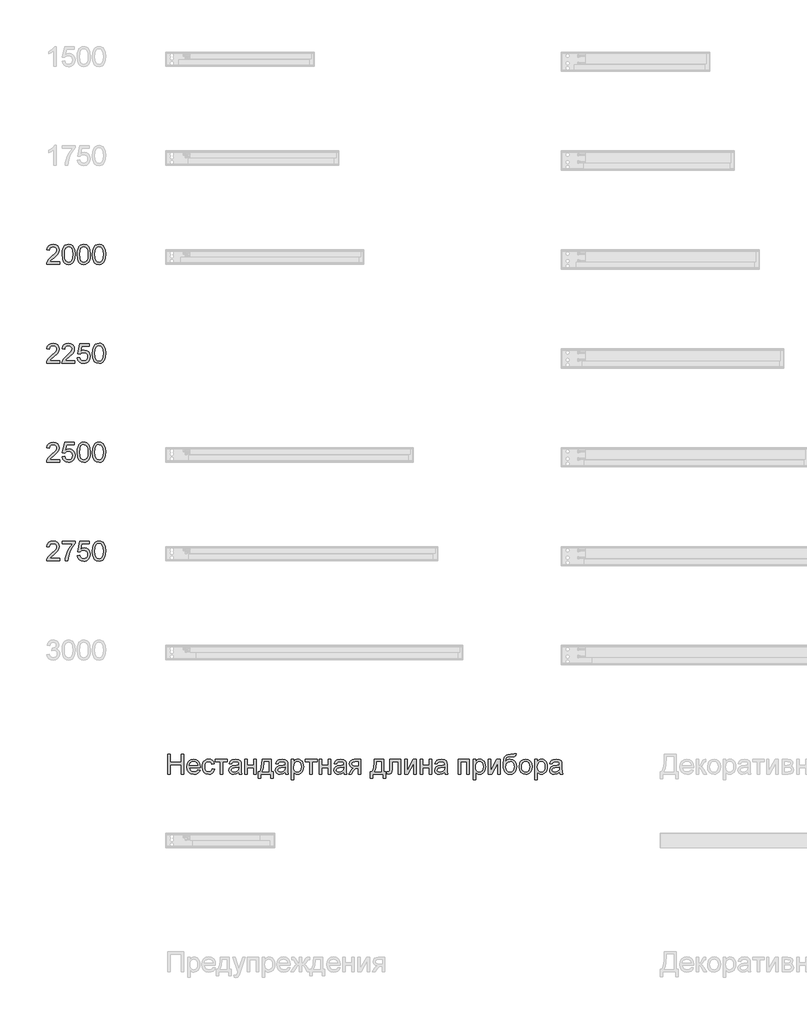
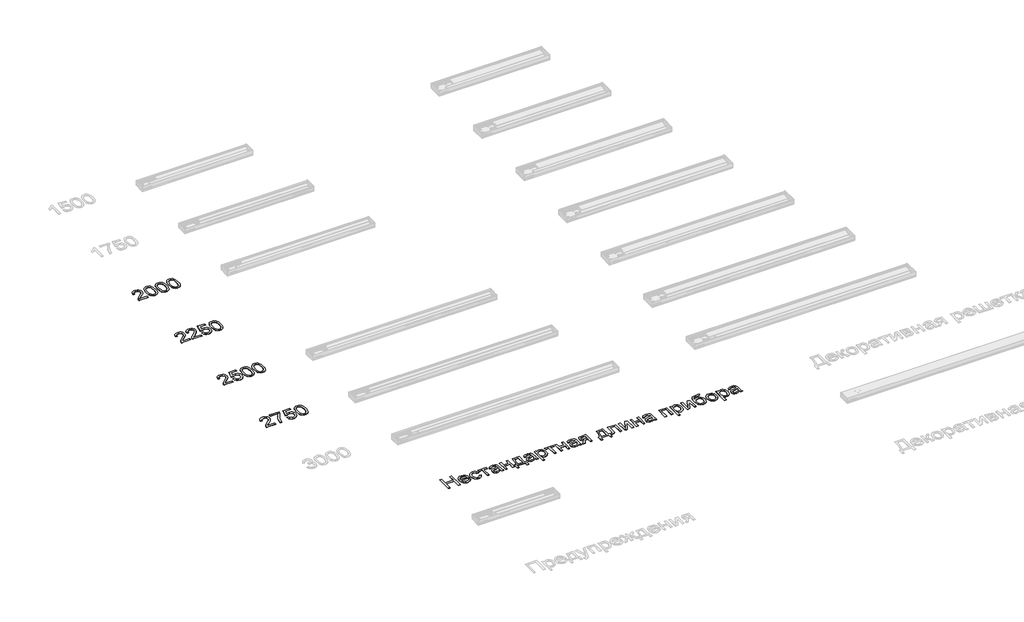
# One storey, part 3 of 17: 5 proxies.
"""IFC4 building model written with IfcOpenShell, lengths in millimetres."""

from ifc_helpers import new_model, si_unit, origin, origin_with_axes, place, context, project, spatial, polyline, outline, extrude, element, save

model = new_model("IFC4")

# Units and contexts
model_context = context("Model", 3, world=origin())
ifc_project = project(units=[si_unit("LENGTHUNIT", "METRE", prefix="MILLI")], contexts=[model_context])

# Site, building, storey
site = spatial("IfcSite", under=ifc_project)
building = spatial("IfcBuilding", under=site)
storey = spatial("IfcBuildingStorey", under=building, Name="Уровень 1", Elevation=0.0)

# Proxies
placement = place(None, origin())
element("IfcBuildingElementProxy", 1, Name="Текст модели 1", ObjectType="Текст модели 1", at=placement, inside=storey, context=model_context, shape_type="SweptSolid", body=[
    extrude(outline(polyline([(607.9827989, -2428.1283927), (607.9827989, -2453.2424702), (476.1338919, -2453.2424702), (478.8316932, -2435.927491), (494.0865332, -2409.2683091), (525.5281811, -2380.1565805), (568.8892056, -2338.316135), (577.0193977, -2323.8951607), (579.7294617, -2309.866594), (577.1726818, -2297.2911611), (569.5023422, -2286.8371811), (557.7117243, -2279.7922409), (542.7941094, -2277.4439275), (527.1284678, -2279.7370586), (514.9577051, -2286.6164519), (507.1034245, -2297.5425472), (504.3872291, -2311.9757841), (479.2731516, -2308.8365244), (485.3615986, -2284.54405), (498.5256426, -2266.7998751), (518.0785707, -2255.9473562), (543.3336697, -2252.3298499), (568.7727096, -2256.3520264), (588.2888495, -2268.4185559), (600.7048668, -2286.4447736), (604.8435393, -2308.3460151), (600.3799044, -2332.1602429), (585.5419972, -2356.7838111), (549.5631381, -2391.1930404), (520.6721388, -2415.3506247), (509.3413733, -2428.1283927), (607.9827989, -2428.1283927)])), origin_with_axes(), (0.0, 0.0, 1.0), 2.0),
    extrude(outline(polyline([(633.0968765, -2354.4048409), (634.9424178, -2322.2458231), (640.4790419, -2296.5983167), (649.6515663, -2277.0699141), (662.4048088, -2263.2682079), (678.8307398, -2255.0644394), (699.02133, -2252.3298499), (714.4968993, -2253.9485307), (728.3537878, -2258.8045731), (739.9420706, -2266.7079046), (748.611823, -2277.468453), (760.3840468, -2307.1933182), (764.9457836, -2354.4048409), (763.1186363, -2386.3799176), (757.6371946, -2411.9661104), (748.5198525, -2431.5129071), (735.7850041, -2445.3697956), (719.3222848, -2453.6287463), (699.02133, -2456.3817299), (672.9262338, -2451.599264), (653.109657, -2437.2518662), (644.3540655, -2422.1227191), (638.1000716, -2403.2718326), (633.0968765, -2354.4048409)]), holes=[polyline([(658.210954, -2354.3557899), (661.15401, -2393.8601849), (669.9831779, -2416.7240509), (683.1288278, -2427.631752), (699.02133, -2431.2676524), (714.9138322, -2427.6194893), (728.0594822, -2416.6749999), (736.8886501, -2393.7988712), (739.831706, -2354.3557899), (736.9867519, -2315.7404432), (728.4518896, -2292.6987676), (715.3307651, -2281.2576375), (698.7270244, -2277.4439275), (683.0062005, -2280.8039164), (670.3755853, -2290.883883), (661.2521118, -2315.3602985), (658.210954, -2354.3557899)])]), origin_with_axes(), (0.0, 0.0, 1.0), 2.0),
    extrude(outline(polyline([(786.9206014, -2354.4048409), (788.7661427, -2322.2458231), (794.3027668, -2296.5983167), (803.4752912, -2277.0699141), (816.2285337, -2263.2682079), (832.6544648, -2255.0644394), (852.8450549, -2252.3298499), (868.3206242, -2253.9485307), (882.1775127, -2258.8045731), (893.7657955, -2266.7079046), (902.4355479, -2277.468453), (914.2077717, -2307.1933182), (918.7695085, -2354.4048409), (916.9423612, -2386.3799176), (911.4609195, -2411.9661104), (902.3435774, -2431.5129071), (889.608729, -2445.3697956), (873.1460097, -2453.6287463), (852.8450549, -2456.3817299), (826.7499587, -2451.599264), (806.9333819, -2437.2518662), (798.1777905, -2422.1227191), (791.9237965, -2403.2718326), (786.9206014, -2354.4048409)]), holes=[polyline([(812.0346789, -2354.3557899), (814.9777349, -2393.8601849), (823.8069028, -2416.7240509), (836.9525527, -2427.631752), (852.8450549, -2431.2676524), (868.7375571, -2427.6194893), (881.8832071, -2416.6749999), (890.712375, -2393.7988712), (893.6554309, -2354.3557899), (890.8104768, -2315.7404432), (882.2756145, -2292.6987676), (869.1544901, -2281.2576375), (852.5507493, -2277.4439275), (836.8299254, -2280.8039164), (824.1993102, -2290.883883), (815.0758368, -2315.3602985), (812.0346789, -2354.3557899)])]), origin_with_axes(), (0.0, 0.0, 1.0), 2.0),
    extrude(outline(polyline([(940.7443263, -2354.4048409), (942.5898677, -2322.2458231), (948.1264917, -2296.5983167), (957.2990161, -2277.0699141), (970.0522586, -2263.2682079), (986.4781897, -2255.0644394), (1006.6687799, -2252.3298499), (1022.1443491, -2253.9485307), (1036.0012376, -2258.8045731), (1047.5895204, -2266.7079046), (1056.2592728, -2277.468453), (1068.0314966, -2307.1933182), (1072.5932334, -2354.4048409), (1070.7660861, -2386.3799176), (1065.2846444, -2411.9661104), (1056.1673023, -2431.5129071), (1043.4324539, -2445.3697956), (1026.9697346, -2453.6287463), (1006.6687799, -2456.3817299), (980.5736837, -2451.599264), (960.7571069, -2437.2518662), (952.0015154, -2422.1227191), (945.7475214, -2403.2718326), (940.7443263, -2354.4048409)]), holes=[polyline([(965.8584039, -2354.3557899), (968.8014598, -2393.8601849), (977.6306277, -2416.7240509), (990.7762777, -2427.631752), (1006.6687799, -2431.2676524), (1022.561282, -2427.6194893), (1035.706932, -2416.6749999), (1044.5360999, -2393.7988712), (1047.4791558, -2354.3557899), (1044.6342018, -2315.7404432), (1036.0993395, -2292.6987676), (1022.978215, -2281.2576375), (1006.3744743, -2277.4439275), (990.6536503, -2280.8039164), (978.0230352, -2290.883883), (968.8995617, -2315.3602985), (965.8584039, -2354.3557899)])]), origin_with_axes(), (0.0, 0.0, 1.0), 2.0),
])
element("IfcBuildingElementProxy", 2, Name="Текст модели 1", ObjectType="Текст модели 1", at=placement, inside=storey, context=model_context, shape_type="SweptSolid", body=[
    extrude(outline(polyline([(607.9827989, -3428.1283927), (607.9827989, -3453.2424702), (476.1338919, -3453.2424702), (478.8316932, -3435.927491), (494.0865332, -3409.2683091), (525.5281811, -3380.1565805), (568.8892056, -3338.316135), (577.0193977, -3323.8951607), (579.7294617, -3309.866594), (577.1726818, -3297.2911611), (569.5023422, -3286.8371811), (557.7117243, -3279.7922409), (542.7941094, -3277.4439275), (527.1284678, -3279.7370586), (514.9577051, -3286.6164519), (507.1034245, -3297.5425472), (504.3872291, -3311.9757841), (479.2731516, -3308.8365244), (485.3615986, -3284.54405), (498.5256426, -3266.7998751), (518.0785707, -3255.9473562), (543.3336697, -3252.3298499), (568.7727096, -3256.3520264), (588.2888495, -3268.4185559), (600.7048668, -3286.4447736), (604.8435393, -3308.3460151), (600.3799044, -3332.1602429), (585.5419972, -3356.7838111), (549.5631381, -3391.1930404), (520.6721388, -3415.3506247), (509.3413733, -3428.1283927), (607.9827989, -3428.1283927)])), origin_with_axes(), (0.0, 0.0, 1.0), 2.0),
    extrude(outline(polyline([(761.8065239, -3428.1283927), (761.8065239, -3453.2424702), (629.9576168, -3453.2424702), (632.6554181, -3435.927491), (647.9102582, -3409.2683091), (679.351906, -3380.1565805), (722.7129305, -3338.316135), (730.8431226, -3323.8951607), (733.5531866, -3309.866594), (730.9964068, -3297.2911611), (723.3260672, -3286.8371811), (711.5354492, -3279.7922409), (696.6178343, -3277.4439275), (680.9521927, -3279.7370586), (668.78143, -3286.6164519), (660.9271494, -3297.5425472), (658.210954, -3311.9757841), (633.0968765, -3308.8365244), (639.1853235, -3284.54405), (652.3493676, -3266.7998751), (671.9022956, -3255.9473562), (697.1573946, -3252.3298499), (722.5964345, -3256.3520264), (742.1125744, -3268.4185559), (754.5285917, -3286.4447736), (758.6672642, -3308.3460151), (754.2036293, -3332.1602429), (739.3657222, -3356.7838111), (703.386863, -3391.1930404), (674.4958637, -3415.3506247), (663.1650982, -3428.1283927), (761.8065239, -3428.1283927)])), origin_with_axes(), (0.0, 0.0, 1.0), 2.0),
    extrude(outline(polyline([(786.9206014, -3399.8750555), (812.0346789, -3396.7357958), (816.6454666, -3411.8128262), (824.6898196, -3422.6101628), (836.1309496, -3429.10328), (850.9320686, -3431.2676524), (868.9337609, -3428.2571514), (882.4227673, -3419.2256484), (890.847265, -3405.2154758), (893.6554309, -3387.2689658), (891.0250747, -3370.3709195), (883.1340059, -3357.4459987), (869.9209109, -3349.2422302), (851.324476, -3346.5076407), (829.2760818, -3350.8731737), (815.1739386, -3362.2039392), (790.0598611, -3359.0646795), (812.0346789, -3255.4691096), (909.3517294, -3255.4691096), (909.3517294, -3280.5831872), (832.3417651, -3280.5831872), (821.5996108, -3335.9126393), (839.5399894, -3325.0233322), (858.3387594, -3321.3935632), (881.8034993, -3325.8939863), (901.282851, -3339.3952555), (914.3978441, -3359.9721217), (918.7695085, -3385.6993359), (914.8331711, -3410.8134135), (903.0241591, -3432.297722), (892.5885731, -3442.8344755), (880.4116791, -3450.360728), (866.493477, -3454.8764794), (850.8339667, -3456.3817299), (826.1674789, -3452.5128376), (806.516449, -3440.9061607), (793.0458366, -3422.9105997), (786.9206014, -3399.8750555)])), origin_with_axes(), (0.0, 0.0, 1.0), 2.0),
    extrude(outline(polyline([(940.7443263, -3354.4048409), (942.5898677, -3322.2458231), (948.1264917, -3296.5983167), (957.2990161, -3277.0699141), (970.0522586, -3263.2682079), (986.4781897, -3255.0644394), (1006.6687799, -3252.3298499), (1022.1443491, -3253.9485307), (1036.0012376, -3258.8045731), (1047.5895204, -3266.7079046), (1056.2592728, -3277.468453), (1068.0314966, -3307.1933182), (1072.5932334, -3354.4048409), (1070.7660861, -3386.3799176), (1065.2846444, -3411.9661104), (1056.1673023, -3431.5129071), (1043.4324539, -3445.3697956), (1026.9697346, -3453.6287463), (1006.6687799, -3456.3817299), (980.5736837, -3451.599264), (960.7571069, -3437.2518662), (952.0015154, -3422.1227191), (945.7475214, -3403.2718326), (940.7443263, -3354.4048409)]), holes=[polyline([(965.8584039, -3354.3557899), (968.8014598, -3393.8601849), (977.6306277, -3416.7240509), (990.7762777, -3427.631752), (1006.6687799, -3431.2676524), (1022.561282, -3427.6194893), (1035.706932, -3416.6749999), (1044.5360999, -3393.7988712), (1047.4791558, -3354.3557899), (1044.6342018, -3315.7404432), (1036.0993395, -3292.6987676), (1022.978215, -3281.2576375), (1006.3744743, -3277.4439275), (990.6536503, -3280.8039164), (978.0230352, -3290.883883), (968.8995617, -3315.3602985), (965.8584039, -3354.3557899)])]), origin_with_axes(), (0.0, 0.0, 1.0), 2.0),
])
element("IfcBuildingElementProxy", 3, Name="Текст модели 1", ObjectType="Текст модели 1", at=placement, inside=storey, context=model_context, shape_type="SweptSolid", body=[
    extrude(outline(polyline([(607.9827989, -4428.1283927), (607.9827989, -4453.2424702), (476.1338919, -4453.2424702), (478.8316932, -4435.927491), (494.0865332, -4409.2683091), (525.5281811, -4380.1565805), (568.8892056, -4338.316135), (577.0193977, -4323.8951607), (579.7294617, -4309.866594), (577.1726818, -4297.2911611), (569.5023422, -4286.8371811), (557.7117243, -4279.7922409), (542.7941094, -4277.4439275), (527.1284678, -4279.7370586), (514.9577051, -4286.6164519), (507.1034245, -4297.5425472), (504.3872291, -4311.9757841), (479.2731516, -4308.8365244), (485.3615986, -4284.54405), (498.5256426, -4266.7998751), (518.0785707, -4255.9473562), (543.3336697, -4252.3298499), (568.7727096, -4256.3520264), (588.2888495, -4268.4185559), (600.7048668, -4286.4447736), (604.8435393, -4308.3460151), (600.3799044, -4332.1602429), (585.5419972, -4356.7838111), (549.5631381, -4391.1930404), (520.6721388, -4415.3506247), (509.3413733, -4428.1283927), (607.9827989, -4428.1283927)])), origin_with_axes(), (0.0, 0.0, 1.0), 2.0),
    extrude(outline(polyline([(633.0968765, -4399.8750555), (658.210954, -4396.7357958), (662.8217417, -4411.8128262), (670.8660947, -4422.6101628), (682.3072247, -4429.10328), (697.1083436, -4431.2676524), (715.1100359, -4428.2571514), (728.5990424, -4419.2256484), (737.0235401, -4405.2154758), (739.831706, -4387.2689658), (737.2013498, -4370.3709195), (729.310281, -4357.4459987), (716.097186, -4349.2422302), (697.5007511, -4346.5076407), (675.4523569, -4350.8731737), (661.3502137, -4362.2039392), (636.2361362, -4359.0646795), (658.210954, -4255.4691096), (755.5280045, -4255.4691096), (755.5280045, -4280.5831872), (678.5180402, -4280.5831872), (667.7758859, -4335.9126393), (685.7162645, -4325.0233322), (704.5150345, -4321.3935632), (727.9797744, -4325.8939863), (747.459126, -4339.3952555), (760.5741192, -4359.9721217), (764.9457836, -4385.6993359), (761.0094462, -4410.8134135), (749.2004342, -4432.297722), (738.7648482, -4442.8344755), (726.5879542, -4450.360728), (712.669752, -4454.8764794), (697.0102418, -4456.3817299), (672.343754, -4452.5128376), (652.6927241, -4440.9061607), (639.2221117, -4422.9105997), (633.0968765, -4399.8750555)])), origin_with_axes(), (0.0, 0.0, 1.0), 2.0),
    extrude(outline(polyline([(786.9206014, -4354.4048409), (788.7661427, -4322.2458231), (794.3027668, -4296.5983167), (803.4752912, -4277.0699141), (816.2285337, -4263.2682079), (832.6544648, -4255.0644394), (852.8450549, -4252.3298499), (868.3206242, -4253.9485307), (882.1775127, -4258.8045731), (893.7657955, -4266.7079046), (902.4355479, -4277.468453), (914.2077717, -4307.1933182), (918.7695085, -4354.4048409), (916.9423612, -4386.3799176), (911.4609195, -4411.9661104), (902.3435774, -4431.5129071), (889.608729, -4445.3697956), (873.1460097, -4453.6287463), (852.8450549, -4456.3817299), (826.7499587, -4451.599264), (806.9333819, -4437.2518662), (798.1777905, -4422.1227191), (791.9237965, -4403.2718326), (786.9206014, -4354.4048409)]), holes=[polyline([(812.0346789, -4354.3557899), (814.9777349, -4393.8601849), (823.8069028, -4416.7240509), (836.9525527, -4427.631752), (852.8450549, -4431.2676524), (868.7375571, -4427.6194893), (881.8832071, -4416.6749999), (890.712375, -4393.7988712), (893.6554309, -4354.3557899), (890.8104768, -4315.7404432), (882.2756145, -4292.6987676), (869.1544901, -4281.2576375), (852.5507493, -4277.4439275), (836.8299254, -4280.8039164), (824.1993102, -4290.883883), (815.0758368, -4315.3602985), (812.0346789, -4354.3557899)])]), origin_with_axes(), (0.0, 0.0, 1.0), 2.0),
    extrude(outline(polyline([(940.7443263, -4354.4048409), (942.5898677, -4322.2458231), (948.1264917, -4296.5983167), (957.2990161, -4277.0699141), (970.0522586, -4263.2682079), (986.4781897, -4255.0644394), (1006.6687799, -4252.3298499), (1022.1443491, -4253.9485307), (1036.0012376, -4258.8045731), (1047.5895204, -4266.7079046), (1056.2592728, -4277.468453), (1068.0314966, -4307.1933182), (1072.5932334, -4354.4048409), (1070.7660861, -4386.3799176), (1065.2846444, -4411.9661104), (1056.1673023, -4431.5129071), (1043.4324539, -4445.3697956), (1026.9697346, -4453.6287463), (1006.6687799, -4456.3817299), (980.5736837, -4451.599264), (960.7571069, -4437.2518662), (952.0015154, -4422.1227191), (945.7475214, -4403.2718326), (940.7443263, -4354.4048409)]), holes=[polyline([(965.8584039, -4354.3557899), (968.8014598, -4393.8601849), (977.6306277, -4416.7240509), (990.7762777, -4427.631752), (1006.6687799, -4431.2676524), (1022.561282, -4427.6194893), (1035.706932, -4416.6749999), (1044.5360999, -4393.7988712), (1047.4791558, -4354.3557899), (1044.6342018, -4315.7404432), (1036.0993395, -4292.6987676), (1022.978215, -4281.2576375), (1006.3744743, -4277.4439275), (990.6536503, -4280.8039164), (978.0230352, -4290.883883), (968.8995617, -4315.3602985), (965.8584039, -4354.3557899)])]), origin_with_axes(), (0.0, 0.0, 1.0), 2.0),
])
element("IfcBuildingElementProxy", 4, Name="Текст модели 1", ObjectType="Текст модели 1", at=placement, inside=storey, context=model_context, shape_type="SweptSolid", body=[
    extrude(outline(polyline([(607.9827989, -5428.1283927), (607.9827989, -5453.2424702), (476.1338919, -5453.2424702), (478.8316932, -5435.927491), (494.0865332, -5409.2683091), (525.5281811, -5380.1565805), (568.8892056, -5338.316135), (577.0193977, -5323.8951607), (579.7294617, -5309.866594), (577.1726818, -5297.2911611), (569.5023422, -5286.8371811), (557.7117243, -5279.7922409), (542.7941094, -5277.4439275), (527.1284678, -5279.7370586), (514.9577051, -5286.6164519), (507.1034245, -5297.5425472), (504.3872291, -5311.9757841), (479.2731516, -5308.8365244), (485.3615986, -5284.54405), (498.5256426, -5266.7998751), (518.0785707, -5255.9473562), (543.3336697, -5252.3298499), (568.7727096, -5256.3520264), (588.2888495, -5268.4185559), (600.7048668, -5286.4447736), (604.8435393, -5308.3460151), (600.3799044, -5332.1602429), (585.5419972, -5356.7838111), (549.5631381, -5391.1930404), (520.6721388, -5415.3506247), (509.3413733, -5428.1283927), (607.9827989, -5428.1283927)])), origin_with_axes(), (0.0, 0.0, 1.0), 2.0),
    extrude(outline(polyline([(633.0968765, -5280.5831872), (633.0968765, -5255.4691096), (764.9457836, -5255.4691096), (764.9457836, -5275.7761958), (746.153145, -5299.5597668), (727.5444474, -5329.8057981), (711.130779, -5363.7551749), (698.9232282, -5398.6487822), (689.6035509, -5453.2424702), (664.4894734, -5453.2424702), (667.2056688, -5427.3558405), (674.4713382, -5396.588643), (686.0902779, -5363.9759041), (701.8662841, -5332.5526504), (720.2849093, -5304.146029), (739.831706, -5280.5831872), (633.0968765, -5280.5831872)])), origin_with_axes(), (0.0, 0.0, 1.0), 2.0),
    extrude(outline(polyline([(786.9206014, -5399.8750555), (812.0346789, -5396.7357958), (816.6454666, -5411.8128262), (824.6898196, -5422.6101628), (836.1309496, -5429.10328), (850.9320686, -5431.2676524), (868.9337609, -5428.2571514), (882.4227673, -5419.2256484), (890.847265, -5405.2154758), (893.6554309, -5387.2689658), (891.0250747, -5370.3709195), (883.1340059, -5357.4459987), (869.9209109, -5349.2422302), (851.324476, -5346.5076407), (829.2760818, -5350.8731737), (815.1739386, -5362.2039392), (790.0598611, -5359.0646795), (812.0346789, -5255.4691096), (909.3517294, -5255.4691096), (909.3517294, -5280.5831872), (832.3417651, -5280.5831872), (821.5996108, -5335.9126393), (839.5399894, -5325.0233322), (858.3387594, -5321.3935632), (881.8034993, -5325.8939863), (901.282851, -5339.3952555), (914.3978441, -5359.9721217), (918.7695085, -5385.6993359), (914.8331711, -5410.8134135), (903.0241591, -5432.297722), (892.5885731, -5442.8344755), (880.4116791, -5450.360728), (866.493477, -5454.8764794), (850.8339667, -5456.3817299), (826.1674789, -5452.5128376), (806.516449, -5440.9061607), (793.0458366, -5422.9105997), (786.9206014, -5399.8750555)])), origin_with_axes(), (0.0, 0.0, 1.0), 2.0),
    extrude(outline(polyline([(940.7443263, -5354.4048409), (942.5898677, -5322.2458231), (948.1264917, -5296.5983167), (957.2990161, -5277.0699141), (970.0522586, -5263.2682079), (986.4781897, -5255.0644394), (1006.6687799, -5252.3298499), (1022.1443491, -5253.9485307), (1036.0012376, -5258.8045731), (1047.5895204, -5266.7079046), (1056.2592728, -5277.468453), (1068.0314966, -5307.1933182), (1072.5932334, -5354.4048409), (1070.7660861, -5386.3799176), (1065.2846444, -5411.9661104), (1056.1673023, -5431.5129071), (1043.4324539, -5445.3697956), (1026.9697346, -5453.6287463), (1006.6687799, -5456.3817299), (980.5736837, -5451.599264), (960.7571069, -5437.2518662), (952.0015154, -5422.1227191), (945.7475214, -5403.2718326), (940.7443263, -5354.4048409)]), holes=[polyline([(965.8584039, -5354.3557899), (968.8014598, -5393.8601849), (977.6306277, -5416.7240509), (990.7762777, -5427.631752), (1006.6687799, -5431.2676524), (1022.561282, -5427.6194893), (1035.706932, -5416.6749999), (1044.5360999, -5393.7988712), (1047.4791558, -5354.3557899), (1044.6342018, -5315.7404432), (1036.0993395, -5292.6987676), (1022.978215, -5281.2576375), (1006.3744743, -5277.4439275), (990.6536503, -5280.8039164), (978.0230352, -5290.883883), (968.8995617, -5315.3602985), (965.8584039, -5354.3557899)])]), origin_with_axes(), (0.0, 0.0, 1.0), 2.0),
])
element("IfcBuildingElementProxy", 5, Name="Текст модели 1", ObjectType="Текст модели 1", at=placement, inside=storey, context=model_context, shape_type="SweptSolid", body=[
    extrude(outline(polyline([(1703.9858303, -7608.2424702), (1703.9858303, -7407.3298499), (1729.0999078, -7407.3298499), (1729.0999078, -7488.9506019), (1835.8347374, -7488.9506019), (1835.8347374, -7407.3298499), (1860.9488149, -7407.3298499), (1860.9488149, -7608.2424702), (1835.8347374, -7608.2424702), (1835.8347374, -7514.0646795), (1729.0999078, -7514.0646795), (1729.0999078, -7608.2424702), (1703.9858303, -7608.2424702)])), origin_with_axes(), (0.0, 0.0, 1.0), 2.0),
    extrude(outline(polyline([(2005.0604552, -7564.2928346), (2029.6840234, -7567.4320942), (2020.8119359, -7585.9856095), (2006.6546105, -7599.8547608), (1987.5308781, -7608.4999876), (1963.7595698, -7611.3817299), (1934.292222, -7606.4091916), (1911.6184284, -7591.4915767), (1897.160666, -7567.5976411), (1892.3414118, -7535.6961408), (1897.2097169, -7502.7216513), (1911.8146321, -7478.0612949), (1934.1818574, -7462.6838275), (1962.3370928, -7457.558005), (1989.6155427, -7462.6715648), (2011.4125509, -7478.012244), (2025.7047665, -7502.6235494), (2030.4688383, -7535.548988), (2030.3216855, -7542.3180167), (1917.4554894, -7542.3180167), (1921.8026283, -7561.1167867), (1931.9009891, -7574.936887), (1946.4752474, -7583.434961), (1964.2500792, -7586.2676524), (1988.8736474, -7581.0192026), (1998.0216463, -7574.2133857), (2005.0604552, -7564.2928346)]), holes=[polyline([(1917.4554894, -7517.2039392), (2005.3547608, -7517.2039392), (2001.9579837, -7503.9356619), (1995.2993196, -7494.4443064), (1980.6576161, -7485.6151385), (1962.2389909, -7482.6720826), (1945.3102878, -7485.020396), (1931.3123779, -7492.0653362), (1921.5818991, -7503.0466137), (1917.4554894, -7517.2039392)])]), origin_with_axes(), (0.0, 0.0, 1.0), 2.0),
    extrude(outline(polyline([(2149.7607066, -7554.8750555), (2174.8747841, -7558.0143152), (2167.8727635, -7580.3508836), (2154.7148508, -7597.2305359), (2136.6395821, -7607.8439314), (2114.8854935, -7611.3817299), (2088.1711292, -7606.4459798), (2067.2815633, -7591.6387295), (2053.7986882, -7567.6099039), (2049.3043964, -7535.0094277), (2051.2235142, -7512.6605965), (2056.9808674, -7493.2916095), (2066.6684266, -7477.6504933), (2080.3781623, -7466.4852748), (2096.7795679, -7459.7898225), (2114.5421369, -7457.558005), (2135.7627967, -7460.6236883), (2152.728288, -7469.8207382), (2164.8990507, -7484.6586453), (2171.7355244, -7504.6469004), (2146.6214469, -7507.7861601), (2142.0658415, -7496.829408), (2134.9718504, -7488.9751274), (2125.7318809, -7484.2478438), (2114.7383407, -7482.6720826), (2098.5086133, -7485.7745541), (2085.6266121, -7495.0819685), (2077.2205085, -7511.0970981), (2074.418474, -7534.3227147), (2077.1591948, -7557.861031), (2085.3813574, -7573.9313428), (2098.0303667, -7583.183575), (2114.0516276, -7586.2676524), (2127.0562561, -7584.3424033), (2137.7187026, -7578.566656), (2145.4748814, -7568.7932576), (2149.7607066, -7554.8750555)])), origin_with_axes(), (0.0, 0.0, 1.0), 2.0),
    extrude(outline(polyline([(2184.2925632, -7460.6972647), (2303.5844315, -7460.6972647), (2303.5844315, -7485.8113423), (2256.4955361, -7485.8113423), (2256.4955361, -7608.2424702), (2231.3814586, -7608.2424702), (2231.3814586, -7485.8113423), (2184.2925632, -7485.8113423), (2184.2925632, -7460.6972647)])), origin_with_axes(), (0.0, 0.0, 1.0), 2.0),
    extrude(outline(polyline([(2419.7370401, -7589.4069121), (2395.383252, -7606.4275857), (2368.4788155, -7611.3817299), (2347.4911476, -7608.4018858), (2332.009447, -7599.4623533), (2322.4629092, -7585.8875077), (2319.28073, -7569.0017241), (2324.0877214, -7549.1360964), (2336.7183365, -7534.7151221), (2354.3030959, -7526.4745655), (2376.0326591, -7522.6976436), (2419.5898873, -7514.0646795), (2419.7370401, -7508.4728732), (2418.0079947, -7497.264735), (2412.8208586, -7489.9316206), (2401.220313, -7484.4869671), (2385.0580307, -7482.6720826), (2370.0974962, -7483.8799618), (2359.6496476, -7487.5035994), (2352.5249996, -7494.2051831), (2347.5340672, -7504.6469004), (2322.4199897, -7501.5076407), (2333.2847713, -7476.9821744), (2342.5431348, -7468.7293549), (2355.1614872, -7462.6102511), (2388.2953923, -7457.558005), (2418.731496, -7462.0216399), (2435.9238479, -7473.229778), (2443.6248443, -7490.2749771), (2444.8511177, -7512.249795), (2444.8511177, -7543.4952391), (2446.1264419, -7587.1260437), (2451.129637, -7608.2424702), (2426.0155595, -7608.2424702), (2419.7370401, -7589.4069121)]), holes=[polyline([(2419.7370401, -7539.178757), (2379.2209697, -7546.8797535), (2357.6140339, -7550.9509809), (2347.8283728, -7557.5728568), (2344.3948075, -7567.2358905), (2346.2648743, -7574.703895), (2351.8750747, -7580.8229989), (2361.1027815, -7584.906489), (2373.8253671, -7586.2676524), (2387.3143736, -7584.7654676), (2399.2337503, -7580.2589131), (2415.6167618, -7565.7153116), (2419.5898873, -7546.2911423), (2419.7370401, -7539.178757)])]), origin_with_axes(), (0.0, 0.0, 1.0), 2.0),
    extrude(outline(polyline([(2479.3829743, -7460.6972647), (2504.4970518, -7460.6972647), (2504.4970518, -7517.2039392), (2570.4215053, -7517.2039392), (2570.4215053, -7460.6972647), (2595.5355829, -7460.6972647), (2595.5355829, -7608.2424702), (2570.4215053, -7608.2424702), (2570.4215053, -7542.3180167), (2504.4970518, -7542.3180167), (2504.4970518, -7608.2424702), (2479.3829743, -7608.2424702), (2479.3829743, -7460.6972647)])), origin_with_axes(), (0.0, 0.0, 1.0), 2.0),
    extrude(outline(polyline([(2655.181517, -7460.6972647), (2749.3593078, -7460.6972647), (2749.3593078, -7583.1283927), (2768.194866, -7583.1283927), (2768.194866, -7649.0528462), (2743.0807884, -7649.0528462), (2743.0807884, -7608.2424702), (2639.4852186, -7608.2424702), (2639.4852186, -7649.0528462), (2614.371141, -7649.0528462), (2614.371141, -7583.1283927), (2630.0674395, -7583.1283927), (2641.4779127, -7562.5086069), (2649.4670834, -7535.2301569), (2654.0349515, -7501.2930429), (2655.181517, -7460.6972647)]), holes=[polyline([(2677.1563349, -7485.8113423), (2671.270223, -7543.0292552), (2658.3207767, -7583.1283927), (2724.2452303, -7583.1283927), (2724.2452303, -7485.8113423), (2677.1563349, -7485.8113423)])]), origin_with_axes(), (0.0, 0.0, 1.0), 2.0),
    extrude(outline(polyline([(2890.625994, -7589.4069121), (2866.2722059, -7606.4275857), (2839.3677693, -7611.3817299), (2818.3801015, -7608.4018858), (2802.8984008, -7599.4623533), (2793.3518631, -7585.8875077), (2790.1696838, -7569.0017241), (2794.9766752, -7549.1360964), (2807.6072904, -7534.7151221), (2825.1920497, -7526.4745655), (2846.9216129, -7522.6976436), (2890.4788412, -7514.0646795), (2890.625994, -7508.4728732), (2888.8969486, -7497.264735), (2883.7098124, -7489.9316206), (2872.1092669, -7484.4869671), (2855.9469845, -7482.6720826), (2840.9864501, -7483.8799618), (2830.5386014, -7487.5035994), (2823.4139534, -7494.2051831), (2818.423021, -7504.6469004), (2793.3089435, -7501.5076407), (2804.1737251, -7476.9821744), (2813.4320886, -7468.7293549), (2826.0504411, -7462.6102511), (2859.1843461, -7457.558005), (2889.6204498, -7462.0216399), (2906.8128017, -7473.229778), (2914.5137982, -7490.2749771), (2915.7400715, -7512.249795), (2915.7400715, -7543.4952391), (2917.0153957, -7587.1260437), (2922.0185909, -7608.2424702), (2896.9045133, -7608.2424702), (2890.625994, -7589.4069121)]), holes=[polyline([(2890.625994, -7539.178757), (2850.1099235, -7546.8797535), (2828.5029877, -7550.9509809), (2818.7173266, -7557.5728568), (2815.2837613, -7567.2358905), (2817.1538281, -7574.703895), (2822.7640286, -7580.8229989), (2831.9917353, -7584.906489), (2844.714321, -7586.2676524), (2858.2033274, -7584.7654676), (2870.1227041, -7580.2589131), (2886.5057156, -7565.7153116), (2890.4788412, -7546.2911423), (2890.625994, -7539.178757)])]), origin_with_axes(), (0.0, 0.0, 1.0), 2.0),
    extrude(outline(polyline([(2950.2719281, -7664.7491447), (2950.2719281, -7460.6972647), (2975.3860056, -7460.6972647), (2975.3860056, -7485.3208329), (2992.7500358, -7464.498712), (3003.4431391, -7459.2931818), (3016.1963816, -7457.558005), (3033.1802671, -7459.9860262), (3048.030437, -7467.2700897), (3060.1214919, -7478.9687371), (3068.8280324, -7494.6405101), (3074.0887449, -7513.1449745), (3075.8423158, -7533.341696), (3073.8618844, -7554.8198732), (3067.9205902, -7574.0294447), (3058.2085055, -7589.9955233), (3044.9157027, -7601.7432217), (3029.4340021, -7608.9721029), (3013.1552238, -7611.3817299), (3001.6098605, -7609.7691805), (2991.3030333, -7604.9315323), (2975.3860056, -7588.6220972), (2975.3860056, -7664.7491447), (2950.2719281, -7664.7491447)]), holes=[polyline([(2975.3860056, -7535.6470899), (2978.102201, -7558.161468), (2986.2507872, -7573.9068174), (2998.2743971, -7583.1774436), (3012.6156636, -7586.2676524), (3027.1899219, -7583.067079), (3039.5201001, -7573.465359), (3047.9262037, -7557.1436611), (3050.7282383, -7533.7831544), (3047.9936488, -7511.3914037), (3039.7898803, -7495.4253251), (3027.7846645, -7485.8603932), (3013.6457331, -7482.6720826), (2999.4516195, -7486.0627283), (2986.9865512, -7496.2346654), (2978.286142, -7512.869063), (2975.3860056, -7535.6470899)])]), origin_with_axes(), (0.0, 0.0, 1.0), 2.0),
    extrude(outline(polyline([(3091.5386142, -7460.6972647), (3210.8304826, -7460.6972647), (3210.8304826, -7485.8113423), (3163.7415872, -7485.8113423), (3163.7415872, -7608.2424702), (3138.6275096, -7608.2424702), (3138.6275096, -7485.8113423), (3091.5386142, -7485.8113423), (3091.5386142, -7460.6972647)])), origin_with_axes(), (0.0, 0.0, 1.0), 2.0),
    extrude(outline(polyline([(3232.8053004, -7460.6972647), (3257.9193779, -7460.6972647), (3257.9193779, -7517.2039392), (3323.8438315, -7517.2039392), (3323.8438315, -7460.6972647), (3348.957909, -7460.6972647), (3348.957909, -7608.2424702), (3323.8438315, -7608.2424702), (3323.8438315, -7542.3180167), (3257.9193779, -7542.3180167), (3257.9193779, -7608.2424702), (3232.8053004, -7608.2424702), (3232.8053004, -7460.6972647)])), origin_with_axes(), (0.0, 0.0, 1.0), 2.0),
    extrude(outline(polyline([(3480.8068161, -7589.4069121), (3456.453028, -7606.4275857), (3429.5485914, -7611.3817299), (3408.5609236, -7608.4018858), (3393.079223, -7599.4623533), (3383.5326852, -7585.8875077), (3380.3505059, -7569.0017241), (3385.1574973, -7549.1360964), (3397.7881125, -7534.7151221), (3415.3728719, -7526.4745655), (3437.1024351, -7522.6976436), (3480.6596633, -7514.0646795), (3480.8068161, -7508.4728732), (3479.0777707, -7497.264735), (3473.8906346, -7489.9316206), (3462.290089, -7484.4869671), (3446.1278067, -7482.6720826), (3431.1672722, -7483.8799618), (3420.7194235, -7487.5035994), (3413.5947756, -7494.2051831), (3408.6038432, -7504.6469004), (3383.4897656, -7501.5076407), (3394.3545472, -7476.9821744), (3403.6129108, -7468.7293549), (3416.2312632, -7462.6102511), (3449.3651682, -7457.558005), (3479.801272, -7462.0216399), (3496.9936239, -7473.229778), (3504.6946203, -7490.2749771), (3505.9208936, -7512.249795), (3505.9208936, -7543.4952391), (3507.1962179, -7587.1260437), (3512.199413, -7608.2424702), (3487.0853355, -7608.2424702), (3480.8068161, -7589.4069121)]), holes=[polyline([(3480.8068161, -7539.178757), (3440.2907457, -7546.8797535), (3418.6838098, -7550.9509809), (3408.8981488, -7557.5728568), (3405.4645835, -7567.2358905), (3407.3346503, -7574.703895), (3412.9448507, -7580.8229989), (3422.1725574, -7584.906489), (3434.8951431, -7586.2676524), (3448.3841496, -7584.7654676), (3460.3035262, -7580.2589131), (3476.6865377, -7565.7153116), (3480.6596633, -7546.2911423), (3480.8068161, -7539.178757)])]), origin_with_axes(), (0.0, 0.0, 1.0), 2.0),
    extrude(outline(polyline([(3653.4660991, -7460.6972647), (3653.4660991, -7608.2424702), (3628.3520216, -7608.2424702), (3628.3520216, -7551.7357958), (3614.6668114, -7551.7357958), (3596.027457, -7554.9241064), (3578.516274, -7576.359364), (3558.5034935, -7608.2424702), (3529.4653413, -7608.2424702), (3554.6775207, -7567.9226036), (3565.8120824, -7553.4525784), (3576.0637274, -7547.0269063), (3558.8959009, -7541.7661937), (3546.8293715, -7531.7720662), (3539.6924608, -7518.4792634), (3537.3134905, -7503.3225252), (3540.5631148, -7486.1301733), (3550.3119877, -7472.5185395), (3566.2167526, -7463.6525834), (3587.9340531, -7460.6972647), (3653.4660991, -7460.6972647)]), holes=[polyline([(3628.3520216, -7485.8113423), (3595.242642, -7485.8113423), (3578.1422606, -7487.2644761), (3568.4363073, -7491.6238778), (3562.4275681, -7505.2355116), (3564.6409914, -7514.8065748), (3571.2812614, -7521.4468449), (3583.550126, -7525.3279999), (3602.6493329, -7526.6217183), (3628.3520216, -7526.6217183), (3628.3520216, -7485.8113423)])]), origin_with_axes(), (0.0, 0.0, 1.0), 2.0),
    extrude(outline(polyline([(3791.5935256, -7460.6972647), (3885.7713164, -7460.6972647), (3885.7713164, -7583.1283927), (3904.6068745, -7583.1283927), (3904.6068745, -7649.0528462), (3879.492797, -7649.0528462), (3879.492797, -7608.2424702), (3775.8972271, -7608.2424702), (3775.8972271, -7649.0528462), (3750.7831496, -7649.0528462), (3750.7831496, -7583.1283927), (3766.4794481, -7583.1283927), (3777.8899213, -7562.5086069), (3785.8790919, -7535.2301569), (3790.4469601, -7501.2930429), (3791.5935256, -7460.6972647)]), holes=[polyline([(3813.5683435, -7485.8113423), (3807.6822315, -7543.0292552), (3794.7327853, -7583.1283927), (3860.6572388, -7583.1283927), (3860.6572388, -7485.8113423), (3813.5683435, -7485.8113423)])]), origin_with_axes(), (0.0, 0.0, 1.0), 2.0),
    extrude(outline(polyline([(3945.4172505, -7460.6972647), (4058.4305994, -7460.6972647), (4058.4305994, -7608.0953174), (4033.3165219, -7608.0953174), (4033.3165219, -7485.8113423), (3970.5313281, -7485.8113423), (3970.5313281, -7556.1994307), (3968.8390709, -7588.6711481), (3959.5439191, -7602.3808838), (3950.2487674, -7606.7770736), (3937.5691013, -7608.2424702), (3917.1639133, -7606.967146), (3917.1639133, -7583.1283927), (3928.3965769, -7583.1283927), (3939.7518678, -7581.5832883), (3944.2890791, -7576.6781951), (3945.4172505, -7554.7769536), (3945.4172505, -7460.6972647)])), origin_with_axes(), (0.0, 0.0, 1.0), 2.0),
    extrude(outline(polyline([(4096.1017157, -7460.6972647), (4121.2157933, -7460.6972647), (4121.2157933, -7573.2201043), (4182.9218666, -7460.6972647), (4215.393584, -7460.6972647), (4215.393584, -7608.2424702), (4190.2795065, -7608.2424702), (4190.2795065, -7496.4063437), (4128.9658406, -7608.2424702), (4096.1017157, -7608.2424702), (4096.1017157, -7460.6972647)])), origin_with_axes(), (0.0, 0.0, 1.0), 2.0),
    extrude(outline(polyline([(4253.0647004, -7460.6972647), (4278.1787779, -7460.6972647), (4278.1787779, -7517.2039392), (4344.1032314, -7517.2039392), (4344.1032314, -7460.6972647), (4369.217309, -7460.6972647), (4369.217309, -7608.2424702), (4344.1032314, -7608.2424702), (4344.1032314, -7542.3180167), (4278.1787779, -7542.3180167), (4278.1787779, -7608.2424702), (4253.0647004, -7608.2424702), (4253.0647004, -7460.6972647)])), origin_with_axes(), (0.0, 0.0, 1.0), 2.0),
    extrude(outline(polyline([(4501.066216, -7589.4069121), (4476.712428, -7606.4275857), (4449.8079914, -7611.3817299), (4428.8203236, -7608.4018858), (4413.3386229, -7599.4623533), (4403.7920851, -7585.8875077), (4400.6099059, -7569.0017241), (4405.4168973, -7549.1360964), (4418.0475125, -7534.7151221), (4435.6322718, -7526.4745655), (4457.361835, -7522.6976436), (4500.9190632, -7514.0646795), (4501.066216, -7508.4728732), (4499.3371707, -7497.264735), (4494.1500345, -7489.9316206), (4482.5494889, -7484.4869671), (4466.3872066, -7482.6720826), (4451.4266722, -7483.8799618), (4440.9788235, -7487.5035994), (4433.8541755, -7494.2051831), (4428.8632431, -7504.6469004), (4403.7491656, -7501.5076407), (4414.6139472, -7476.9821744), (4423.8723107, -7468.7293549), (4436.4906631, -7462.6102511), (4469.6245682, -7457.558005), (4500.0606719, -7462.0216399), (4517.2530238, -7473.229778), (4524.9540203, -7490.2749771), (4526.1802936, -7512.249795), (4526.1802936, -7543.4952391), (4527.4556178, -7587.1260437), (4532.458813, -7608.2424702), (4507.3447354, -7608.2424702), (4501.066216, -7589.4069121)]), holes=[polyline([(4501.066216, -7539.178757), (4460.5501456, -7546.8797535), (4438.9432098, -7550.9509809), (4429.1575487, -7557.5728568), (4425.7239834, -7567.2358905), (4427.5940502, -7574.703895), (4433.2042507, -7580.8229989), (4442.4319574, -7584.906489), (4455.154543, -7586.2676524), (4468.6435495, -7584.7654676), (4480.5629262, -7580.2589131), (4496.9459377, -7565.7153116), (4500.9190632, -7546.2911423), (4501.066216, -7539.178757)])]), origin_with_axes(), (0.0, 0.0, 1.0), 2.0),
    extrude(outline(polyline([(4639.1936425, -7460.6972647), (4752.2069914, -7460.6972647), (4752.2069914, -7608.2424702), (4727.0929139, -7608.2424702), (4727.0929139, -7485.8113423), (4664.30772, -7485.8113423), (4664.30772, -7608.2424702), (4639.1936425, -7608.2424702), (4639.1936425, -7460.6972647)])), origin_with_axes(), (0.0, 0.0, 1.0), 2.0),
    extrude(outline(polyline([(4789.8781077, -7664.7491447), (4789.8781077, -7460.6972647), (4814.9921853, -7460.6972647), (4814.9921853, -7485.3208329), (4832.3562154, -7464.498712), (4843.0493188, -7459.2931818), (4855.8025613, -7457.558005), (4872.7864467, -7459.9860262), (4887.6366166, -7467.2700897), (4899.7276715, -7478.9687371), (4908.434212, -7494.6405101), (4913.6949246, -7513.1449745), (4915.4484954, -7533.341696), (4913.468064, -7554.8198732), (4907.5267698, -7574.0294447), (4897.8146851, -7589.9955233), (4884.5218823, -7601.7432217), (4869.0401817, -7608.9721029), (4852.7614034, -7611.3817299), (4841.2160401, -7609.7691805), (4830.9092129, -7604.9315323), (4814.9921853, -7588.6220972), (4814.9921853, -7664.7491447), (4789.8781077, -7664.7491447)]), holes=[polyline([(4814.9921853, -7535.6470899), (4817.7083807, -7558.161468), (4825.8569668, -7573.9068174), (4837.8805767, -7583.1774436), (4852.2218432, -7586.2676524), (4866.7961015, -7583.067079), (4879.1262797, -7573.465359), (4887.5323833, -7557.1436611), (4890.3344179, -7533.7831544), (4887.5998284, -7511.3914037), (4879.3960599, -7495.4253251), (4867.3908441, -7485.8603932), (4853.2519128, -7482.6720826), (4839.0577991, -7486.0627283), (4826.5927308, -7496.2346654), (4817.8923216, -7512.869063), (4814.9921853, -7535.6470899)])]), origin_with_axes(), (0.0, 0.0, 1.0), 2.0),
    extrude(outline(polyline([(4943.7018326, -7460.6972647), (4968.8159102, -7460.6972647), (4968.8159102, -7573.2201043), (5030.5219835, -7460.6972647), (5062.9937009, -7460.6972647), (5062.9937009, -7608.2424702), (5037.8796234, -7608.2424702), (5037.8796234, -7496.4063437), (4976.5659575, -7608.2424702), (4943.7018326, -7608.2424702), (4943.7018326, -7460.6972647)])), origin_with_axes(), (0.0, 0.0, 1.0), 2.0),
    extrude(outline(polyline([(5204.2603871, -7404.1905903), (5226.2352049, -7404.1905903), (5219.7604818, -7423.7864379), (5206.9581884, -7430.8742976), (5176.2032536, -7432.4439275), (5150.6661118, -7433.89093), (5134.7797409, -7438.2319375), (5125.2761227, -7445.7612557), (5118.8872387, -7456.7731901), (5113.5161616, -7489.5882641), (5123.6145224, -7475.5596973), (5135.2702503, -7465.5533071), (5148.495608, -7459.5568305), (5163.3028583, -7457.558005), (5189.4347427, -7462.6409079), (5210.6370083, -7477.8896166), (5224.6901005, -7501.8080777), (5229.3744646, -7532.9002376), (5227.0506767, -7556.873881), (5220.0793129, -7576.1141093), (5209.9196384, -7591.0685124), (5198.0309186, -7602.1846801), (5182.9722823, -7609.0824675), (5163.3028583, -7611.3817299), (5140.635196, -7608.4202799), (5123.6451792, -7599.5359297), (5111.1433227, -7586.0346605), (5101.9401415, -7569.2224533), (5096.2747588, -7543.9060407), (5094.3862979, -7504.8921551), (5099.1503697, -7456.7057451), (5105.1054595, -7439.6620788), (5113.4425852, -7427.318105), (5124.2506517, -7418.5732434), (5137.6185637, -7412.3269137), (5172.0339243, -7407.3298499), (5199.9929559, -7406.7657642), (5204.2603871, -7404.1905903)]), holes=[polyline([(5204.2603871, -7532.1154227), (5201.5380603, -7512.3540282), (5193.37108, -7496.528971), (5180.2499555, -7486.1363047), (5162.6651962, -7482.6720826), (5144.3324101, -7486.3325084), (5130.733039, -7497.313786), (5122.3085413, -7514.4141674), (5119.5003754, -7536.4319048), (5122.6028469, -7557.7751919), (5131.9102614, -7573.4408335), (5145.7671499, -7583.0609477), (5162.5180434, -7586.2676524), (5179.354776, -7582.5581756), (5192.684367, -7571.4297453), (5201.3663821, -7554.1822111), (5204.2603871, -7532.1154227)])]), origin_with_axes(), (0.0, 0.0, 1.0), 2.0),
    extrude(outline(polyline([(5254.4885422, -7534.4698675), (5259.920933, -7498.8956785), (5266.7114214, -7485.0725126), (5276.2181053, -7473.8919656), (5296.3535132, -7461.6414952), (5320.4620466, -7457.558005), (5346.845317, -7462.5305433), (5367.918824, -7477.4481582), (5381.7327929, -7501.1336274), (5386.3374492, -7532.4097283), (5384.3018355, -7557.7813232), (5378.1949944, -7577.095128), (5368.1947355, -7591.5590218), (5354.4788684, -7602.3808838), (5338.1878274, -7609.1315184), (5320.4620466, -7611.3817299), (5293.7599451, -7606.4275857), (5272.7109637, -7591.5651531), (5259.0441475, -7567.3830433), (5254.4885422, -7534.4698675)]), holes=[polyline([(5279.6026197, -7534.4208165), (5282.5088875, -7557.1497925), (5291.2276907, -7573.3427316), (5304.3488152, -7583.0364222), (5320.4620466, -7586.2676524), (5336.5017016, -7583.0180281), (5349.5983006, -7573.2691552), (5358.3171039, -7556.8616183), (5361.2233717, -7533.6360016), (5358.2987098, -7511.5692133), (5349.5247242, -7495.5970033), (5336.4097311, -7485.9033128), (5320.4620466, -7482.6720826), (5304.3488152, -7485.89105), (5291.2276907, -7495.5479524), (5282.5088875, -7511.7041033), (5279.6026197, -7534.4208165)])]), origin_with_axes(), (0.0, 0.0, 1.0), 2.0),
    extrude(outline(polyline([(5414.5907865, -7664.7491447), (5414.5907865, -7460.6972647), (5439.704864, -7460.6972647), (5439.704864, -7485.3208329), (5457.0688942, -7464.498712), (5467.7619975, -7459.2931818), (5480.51524, -7457.558005), (5497.4991254, -7459.9860262), (5512.3492953, -7467.2700897), (5524.4403502, -7478.9687371), (5533.1468908, -7494.6405101), (5538.4076033, -7513.1449745), (5540.1611741, -7533.341696), (5538.1807427, -7554.8198732), (5532.2394485, -7574.0294447), (5522.5273638, -7589.9955233), (5509.2345611, -7601.7432217), (5493.7528605, -7608.9721029), (5477.4740822, -7611.3817299), (5465.9287189, -7609.7691805), (5455.6218917, -7604.9315323), (5439.704864, -7588.6220972), (5439.704864, -7664.7491447), (5414.5907865, -7664.7491447)]), holes=[polyline([(5439.704864, -7535.6470899), (5442.4210594, -7558.161468), (5450.5696456, -7573.9068174), (5462.5932555, -7583.1774436), (5476.9345219, -7586.2676524), (5491.5087803, -7583.067079), (5503.8389585, -7573.465359), (5512.2450621, -7557.1436611), (5515.0470966, -7533.7831544), (5512.3125071, -7511.3914037), (5504.1087386, -7495.4253251), (5492.1035228, -7485.8603932), (5477.9645915, -7482.6720826), (5463.7704778, -7486.0627283), (5451.3054096, -7496.2346654), (5442.6050004, -7512.869063), (5439.704864, -7535.6470899)])]), origin_with_axes(), (0.0, 0.0, 1.0), 2.0),
    extrude(outline(polyline([(5662.5923021, -7589.4069121), (5638.2385141, -7606.4275857), (5611.3340775, -7611.3817299), (5590.3464097, -7608.4018858), (5574.864709, -7599.4623533), (5565.3181713, -7585.8875077), (5562.135992, -7569.0017241), (5566.9429834, -7549.1360964), (5579.5735986, -7534.7151221), (5597.1583579, -7526.4745655), (5618.8879211, -7522.6976436), (5662.4451493, -7514.0646795), (5662.5923021, -7508.4728732), (5660.8632568, -7497.264735), (5655.6761206, -7489.9316206), (5644.0755751, -7484.4869671), (5627.9132927, -7482.6720826), (5612.9527583, -7483.8799618), (5602.5049096, -7487.5035994), (5595.3802616, -7494.2051831), (5590.3893292, -7504.6469004), (5565.2752517, -7501.5076407), (5576.1400333, -7476.9821744), (5585.3983968, -7468.7293549), (5598.0167493, -7462.6102511), (5631.1506543, -7457.558005), (5661.586758, -7462.0216399), (5678.7791099, -7473.229778), (5686.4801064, -7490.2749771), (5687.7063797, -7512.249795), (5687.7063797, -7543.4952391), (5688.9817039, -7587.1260437), (5693.9848991, -7608.2424702), (5668.8708215, -7608.2424702), (5662.5923021, -7589.4069121)]), holes=[polyline([(5662.5923021, -7539.178757), (5622.0762317, -7546.8797535), (5600.4692959, -7550.9509809), (5590.6836348, -7557.5728568), (5587.2500695, -7567.2358905), (5589.1201363, -7574.703895), (5594.7303368, -7580.8229989), (5603.9580435, -7584.906489), (5616.6806291, -7586.2676524), (5630.1696356, -7584.7654676), (5642.0890123, -7580.2589131), (5658.4720238, -7565.7153116), (5662.4451493, -7546.2911423), (5662.5923021, -7539.178757)])]), origin_with_axes(), (0.0, 0.0, 1.0), 2.0),
])

save(model, "model.ifc")
